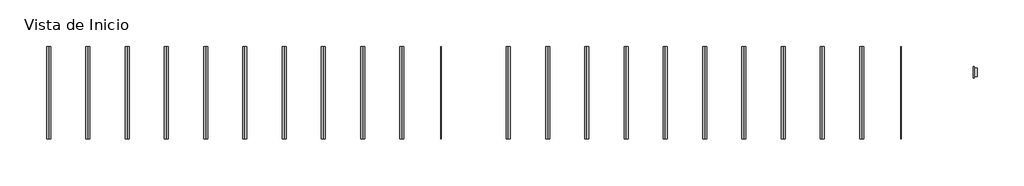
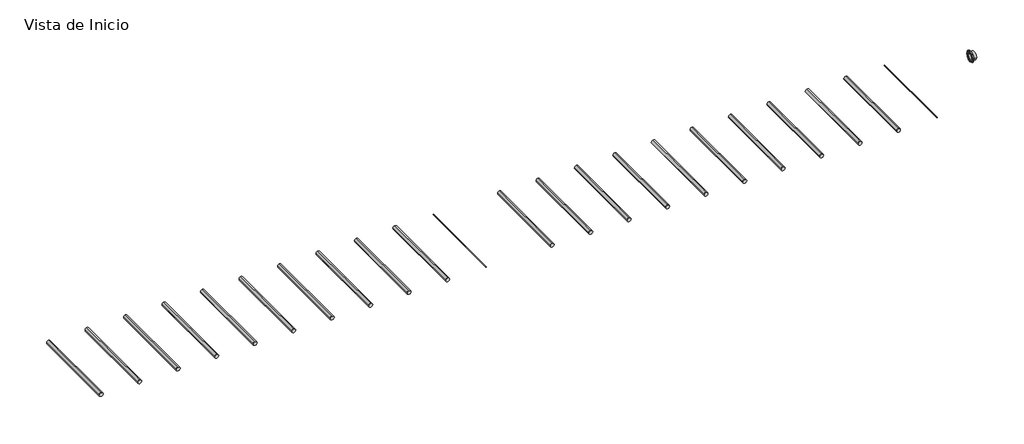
# One storey, incomplete: 22 pipe segments, 1 pipe fitting.
"""IFC4 building model written with IfcOpenShell, lengths in millimetres."""

from ifc_helpers import new_model, si_unit, point, frame, frame_2d, origin, place, context, project, spatial, circle_curve, trimmed, segment, composite_curve, outline, extrude, transform, mapped, element, save
from components import var_bb98a727

model = new_model("IFC4")

# Units and contexts
model_context = context("Model", 3, world=origin())
ifc_project = project(units=[si_unit("LENGTHUNIT", "METRE", prefix="MILLI")], contexts=[model_context])

# Site, building, storey
site = spatial("IfcSite", under=ifc_project)
building = spatial("IfcBuilding", under=site)
storey = spatial("IfcBuildingStorey", under=building, Name="Vista de Inicio", Elevation=0.0)

# Pipe fitting
placement = place(None, origin())
var_shape = var_bb98a727(model_context)
element("IfcPipeFitting", 1, ObjectType="PavcoWavin_UnionesDeTuberia_BIAX y Unión Platino_BridaAjustabledePVCSCH80 : var.", at=placement, inside=storey, context=model_context, shape_type="MappedRepresentation", body=[
    mapped(var_shape, transform((10415.36158, 2957.1682678, 0.0), x_axis=(-1.0, 0.0, 0.0), y_axis=(0.0, -1.0, 0.0), z_axis=(0.0, 0.0, 1.0))),
])

# Pipe segments
element("IfcPipeSegment", 2, ObjectType="PavcoWavin_Tuberías_Unión Platino_RDE17_4\"a12\"(6m)", at=placement, inside=storey, context=model_context, shape_type="SweptSolid", body=[
    extrude(outline(composite_curve([segment(trimmed(circle_curve(frame_2d((0.0, -869.4686059)), 84.1375), [point((0.0, -953.6061059))], [point((-84.1375, -869.4686059))], False, "CARTESIAN"), True, "CONTINUOUS"), segment(trimmed(circle_curve(frame_2d((0.0, -869.4686059)), 84.1375), [point((-84.1375, -869.4686059))], [point((0.0, -785.3311059))], False, "CARTESIAN"), True, "CONTINUOUS"), segment(trimmed(circle_curve(frame_2d((0.0, -869.4686059)), 84.1375), [point((0.0, -785.3311059))], [point((84.1375, -869.4686059))], False, "CARTESIAN"), True, "CONTINUOUS"), segment(trimmed(circle_curve(frame_2d((0.0, -869.4686059)), 84.1375), [point((84.1375, -869.4686059))], [point((0.0, -953.6061059))], False, "CARTESIAN"), True, "CONTINUOUS")], self_intersect=False)), frame((0.0, 146.208853, 0.0), z_axis=(0.0, 1.0, 0.0), x_axis=(0.0, 0.0, 1.0)), (0.0, 0.0, 1.0), 3900.0),
])
element("IfcPipeSegment", 3, ObjectType="PavcoWavin_Tuberías_BIAXIAL_RDE46_3\"a20\"(6m)", at=placement, inside=storey, context=model_context, shape_type="SweptSolid", body=[
    extrude(outline(composite_curve([segment(trimmed(circle_curve(frame_2d((0.0, -9106.9648128)), 84.1375), [point((0.0, -9191.1023128))], [point((-84.1375, -9106.9648128))], False, "CARTESIAN"), True, "CONTINUOUS"), segment(trimmed(circle_curve(frame_2d((0.0, -9106.9648128)), 84.1375), [point((-84.1375, -9106.9648128))], [point((0.0, -9022.8273128))], False, "CARTESIAN"), True, "CONTINUOUS"), segment(trimmed(circle_curve(frame_2d((0.0, -9106.9648128)), 84.1375), [point((0.0, -9022.8273128))], [point((84.1375, -9106.9648128))], False, "CARTESIAN"), True, "CONTINUOUS"), segment(trimmed(circle_curve(frame_2d((0.0, -9106.9648128)), 84.1375), [point((84.1375, -9106.9648128))], [point((0.0, -9191.1023128))], False, "CARTESIAN"), True, "CONTINUOUS")], self_intersect=False)), frame((0.0, 146.208853, 0.0), z_axis=(0.0, 1.0, 0.0), x_axis=(0.0, 0.0, 1.0)), (0.0, 0.0, 1.0), 3900.0),
])
element("IfcPipeSegment", 4, ObjectType="PavcoWavin_Tuberías_BIAXIAL_RDE37_3\"a20\"(6m)", at=placement, inside=storey, context=model_context, shape_type="SweptSolid", body=[
    extrude(outline(composite_curve([segment(trimmed(circle_curve(frame_2d((0.0, -7460.0541826)), 84.1375), [point((0.0, -7544.1916826))], [point((-84.1375, -7460.0541826))], False, "CARTESIAN"), True, "CONTINUOUS"), segment(trimmed(circle_curve(frame_2d((0.0, -7460.0541826)), 84.1375), [point((-84.1375, -7460.0541826))], [point((0.0, -7375.9166826))], False, "CARTESIAN"), True, "CONTINUOUS"), segment(trimmed(circle_curve(frame_2d((0.0, -7460.0541826)), 84.1375), [point((0.0, -7375.9166826))], [point((84.1375, -7460.0541826))], False, "CARTESIAN"), True, "CONTINUOUS"), segment(trimmed(circle_curve(frame_2d((0.0, -7460.0541826)), 84.1375), [point((84.1375, -7460.0541826))], [point((0.0, -7544.1916826))], False, "CARTESIAN"), True, "CONTINUOUS")], self_intersect=False)), frame((0.0, 146.208853, 0.0), z_axis=(0.0, 1.0, 0.0), x_axis=(0.0, 0.0, 1.0)), (0.0, 0.0, 1.0), 3900.0),
])
element("IfcPipeSegment", 5, ObjectType="PavcoWavin_Tuberías_Unión Platino_RDE9_3\"a8\"(6m)", at=placement, inside=storey, context=model_context, shape_type="SweptSolid", body=[
    extrude(outline(composite_curve([segment(trimmed(circle_curve(frame_2d((0.0, -5813.1435525)), 84.1375), [point((0.0, -5897.2810525))], [point((-84.1375, -5813.1435525))], False, "CARTESIAN"), True, "CONTINUOUS"), segment(trimmed(circle_curve(frame_2d((0.0, -5813.1435525)), 84.1375), [point((-84.1375, -5813.1435525))], [point((0.0, -5729.0060525))], False, "CARTESIAN"), True, "CONTINUOUS"), segment(trimmed(circle_curve(frame_2d((0.0, -5813.1435525)), 84.1375), [point((0.0, -5729.0060525))], [point((84.1375, -5813.1435525))], False, "CARTESIAN"), True, "CONTINUOUS"), segment(trimmed(circle_curve(frame_2d((0.0, -5813.1435525)), 84.1375), [point((84.1375, -5813.1435525))], [point((0.0, -5897.2810525))], False, "CARTESIAN"), True, "CONTINUOUS")], self_intersect=False)), frame((0.0, 146.208853, 0.0), z_axis=(0.0, 1.0, 0.0), x_axis=(0.0, 0.0, 1.0)), (0.0, 0.0, 1.0), 3900.0),
])
element("IfcPipeSegment", 6, ObjectType="PavcoWavin_Tuberías_Unión Platino_RDE11_3\"a8\"(6m)", at=placement, inside=storey, context=model_context, shape_type="SweptSolid", body=[
    extrude(outline(composite_curve([segment(trimmed(circle_curve(frame_2d((0.0, -4166.2329223)), 84.1375), [point((0.0, -4250.3704223))], [point((-84.1375, -4166.2329223))], False, "CARTESIAN"), True, "CONTINUOUS"), segment(trimmed(circle_curve(frame_2d((0.0, -4166.2329223)), 84.1375), [point((-84.1375, -4166.2329223))], [point((0.0, -4082.0954223))], False, "CARTESIAN"), True, "CONTINUOUS"), segment(trimmed(circle_curve(frame_2d((0.0, -4166.2329223)), 84.1375), [point((0.0, -4082.0954223))], [point((84.1375, -4166.2329223))], False, "CARTESIAN"), True, "CONTINUOUS"), segment(trimmed(circle_curve(frame_2d((0.0, -4166.2329223)), 84.1375), [point((84.1375, -4166.2329223))], [point((0.0, -4250.3704223))], False, "CARTESIAN"), True, "CONTINUOUS")], self_intersect=False)), frame((0.0, 146.208853, 0.0), z_axis=(0.0, 1.0, 0.0), x_axis=(0.0, 0.0, 1.0)), (0.0, 0.0, 1.0), 3900.0),
])
element("IfcPipeSegment", 7, ObjectType="PavcoWavin_Tuberías_Unión Platino_RDE13.5_2\"a14\"(6m)", at=placement, inside=storey, context=model_context, shape_type="SweptSolid", body=[
    extrude(outline(composite_curve([segment(trimmed(circle_curve(frame_2d((0.0, -2519.3222921)), 84.1375), [point((0.0, -2603.4597921))], [point((-84.1375, -2519.3222921))], False, "CARTESIAN"), True, "CONTINUOUS"), segment(trimmed(circle_curve(frame_2d((0.0, -2519.3222921)), 84.1375), [point((-84.1375, -2519.3222921))], [point((0.0, -2435.1847921))], False, "CARTESIAN"), True, "CONTINUOUS"), segment(trimmed(circle_curve(frame_2d((0.0, -2519.3222921)), 84.1375), [point((0.0, -2435.1847921))], [point((84.1375, -2519.3222921))], False, "CARTESIAN"), True, "CONTINUOUS"), segment(trimmed(circle_curve(frame_2d((0.0, -2519.3222921)), 84.1375), [point((84.1375, -2519.3222921))], [point((0.0, -2603.4597921))], False, "CARTESIAN"), True, "CONTINUOUS")], self_intersect=False)), frame((0.0, 146.208853, 0.0), z_axis=(0.0, 1.0, 0.0), x_axis=(0.0, 0.0, 1.0)), (0.0, 0.0, 1.0), 3900.0),
])
element("IfcPipeSegment", 8, ObjectType="PavcoWavin_Tuberías_Unión Platino_RDE21_2\"a24\"(6m)", at=placement, inside=storey, context=model_context, shape_type="SweptSolid", body=[
    extrude(outline(composite_curve([segment(trimmed(circle_curve(frame_2d((0.0, 777.4420243)), 84.1375), [point((0.0, 693.3045243))], [point((-84.1375, 777.4420243))], False, "CARTESIAN"), True, "CONTINUOUS"), segment(trimmed(circle_curve(frame_2d((0.0, 777.4420243)), 84.1375), [point((-84.1375, 777.4420243))], [point((0.0, 861.5795243))], False, "CARTESIAN"), True, "CONTINUOUS"), segment(trimmed(circle_curve(frame_2d((0.0, 777.4420243)), 84.1375), [point((0.0, 861.5795243))], [point((84.1375, 777.4420243))], False, "CARTESIAN"), True, "CONTINUOUS"), segment(trimmed(circle_curve(frame_2d((0.0, 777.4420243)), 84.1375), [point((84.1375, 777.4420243))], [point((0.0, 693.3045243))], False, "CARTESIAN"), True, "CONTINUOUS")], self_intersect=False)), frame((0.0, 146.208853, 0.0), z_axis=(0.0, 1.0, 0.0), x_axis=(0.0, 0.0, 1.0)), (0.0, 0.0, 1.0), 3900.0),
])
element("IfcPipeSegment", 9, ObjectType="PavcoWavin_Tuberías_Unión Platino_RDE26_2\"a24\"(6m)", at=placement, inside=storey, context=model_context, shape_type="SweptSolid", body=[
    extrude(outline(composite_curve([segment(trimmed(circle_curve(frame_2d((0.0, 2424.3526545)), 84.1375), [point((0.0, 2340.2151545))], [point((-84.1375, 2424.3526545))], False, "CARTESIAN"), True, "CONTINUOUS"), segment(trimmed(circle_curve(frame_2d((0.0, 2424.3526545)), 84.1375), [point((-84.1375, 2424.3526545))], [point((0.0, 2508.4901545))], False, "CARTESIAN"), True, "CONTINUOUS"), segment(trimmed(circle_curve(frame_2d((0.0, 2424.3526545)), 84.1375), [point((0.0, 2508.4901545))], [point((84.1375, 2424.3526545))], False, "CARTESIAN"), True, "CONTINUOUS"), segment(trimmed(circle_curve(frame_2d((0.0, 2424.3526545)), 84.1375), [point((84.1375, 2424.3526545))], [point((0.0, 2340.2151545))], False, "CARTESIAN"), True, "CONTINUOUS")], self_intersect=False)), frame((0.0, 146.208853, 0.0), z_axis=(0.0, 1.0, 0.0), x_axis=(0.0, 0.0, 1.0)), (0.0, 0.0, 1.0), 3900.0),
])
element("IfcPipeSegment", 10, ObjectType="PavcoWavin_Tuberías_Unión Platino_RDE32.5_3\"a24\"(6m)", at=placement, inside=storey, context=model_context, shape_type="SweptSolid", body=[
    extrude(outline(composite_curve([segment(trimmed(circle_curve(frame_2d((0.0, 4071.2632846)), 84.1375), [point((0.0, 3987.1257846))], [point((-84.1375, 4071.2632846))], False, "CARTESIAN"), True, "CONTINUOUS"), segment(trimmed(circle_curve(frame_2d((0.0, 4071.2632846)), 84.1375), [point((-84.1375, 4071.2632846))], [point((0.0, 4155.4007846))], False, "CARTESIAN"), True, "CONTINUOUS"), segment(trimmed(circle_curve(frame_2d((0.0, 4071.2632846)), 84.1375), [point((0.0, 4155.4007846))], [point((84.1375, 4071.2632846))], False, "CARTESIAN"), True, "CONTINUOUS"), segment(trimmed(circle_curve(frame_2d((0.0, 4071.2632846)), 84.1375), [point((84.1375, 4071.2632846))], [point((0.0, 3987.1257846))], False, "CARTESIAN"), True, "CONTINUOUS")], self_intersect=False)), frame((0.0, 146.208853, 0.0), z_axis=(0.0, 1.0, 0.0), x_axis=(0.0, 0.0, 1.0)), (0.0, 0.0, 1.0), 3900.0),
])
element("IfcPipeSegment", 11, ObjectType="PavcoWavin_Tuberías_Unión Platino_RDE41_4\"a24\"(6m)", at=placement, inside=storey, context=model_context, shape_type="SweptSolid", body=[
    extrude(outline(composite_curve([segment(trimmed(circle_curve(frame_2d((0.0, 5718.1739148)), 84.1375), [point((0.0, 5634.0364148))], [point((-84.1375, 5718.1739148))], False, "CARTESIAN"), True, "CONTINUOUS"), segment(trimmed(circle_curve(frame_2d((0.0, 5718.1739148)), 84.1375), [point((-84.1375, 5718.1739148))], [point((0.0, 5802.3114148))], False, "CARTESIAN"), True, "CONTINUOUS"), segment(trimmed(circle_curve(frame_2d((0.0, 5718.1739148)), 84.1375), [point((0.0, 5802.3114148))], [point((84.1375, 5718.1739148))], False, "CARTESIAN"), True, "CONTINUOUS"), segment(trimmed(circle_curve(frame_2d((0.0, 5718.1739148)), 84.1375), [point((84.1375, 5718.1739148))], [point((0.0, 5634.0364148))], False, "CARTESIAN"), True, "CONTINUOUS")], self_intersect=False)), frame((0.0, 146.208853, 0.0), z_axis=(0.0, 1.0, 0.0), x_axis=(0.0, 0.0, 1.0)), (0.0, 0.0, 1.0), 3900.0),
])
element("IfcPipeSegment", 12, ObjectType="PavcoWavin_Tuberías Flexibles_Unión Platino_RDE17_4\"a12\"(6m)", at=placement, inside=storey, context=model_context, shape_type="SweptSolid", body=[
    extrude(outline(composite_curve([segment(trimmed(circle_curve(frame_2d((0.0, -20169.4686059)), 84.1375), [point((0.0, -20253.6061059))], [point((-84.1375, -20169.4686059))], False, "CARTESIAN"), True, "CONTINUOUS"), segment(trimmed(circle_curve(frame_2d((0.0, -20169.4686059)), 84.1375), [point((-84.1375, -20169.4686059))], [point((0.0, -20085.3311059))], False, "CARTESIAN"), True, "CONTINUOUS"), segment(trimmed(circle_curve(frame_2d((0.0, -20169.4686059)), 84.1375), [point((0.0, -20085.3311059))], [point((84.1375, -20169.4686059))], False, "CARTESIAN"), True, "CONTINUOUS"), segment(trimmed(circle_curve(frame_2d((0.0, -20169.4686059)), 84.1375), [point((84.1375, -20169.4686059))], [point((0.0, -20253.6061059))], False, "CARTESIAN"), True, "CONTINUOUS")], self_intersect=False)), frame((0.0, 146.208853, 0.0), z_axis=(0.0, 1.0, 0.0), x_axis=(0.0, 0.0, 1.0)), (0.0, 0.0, 1.0), 3900.0),
])
element("IfcPipeSegment", 13, ObjectType="PavcoWavin_Tuberías Flexibles_BIAXIAL_RDE46_3\"a20\"(6m)", at=placement, inside=storey, context=model_context, shape_type="SweptSolid", body=[
    extrude(outline(composite_curve([segment(trimmed(circle_curve(frame_2d((0.0, -28406.9648128)), 84.1375), [point((0.0, -28491.1023128))], [point((-84.1375, -28406.9648128))], False, "CARTESIAN"), True, "CONTINUOUS"), segment(trimmed(circle_curve(frame_2d((0.0, -28406.9648128)), 84.1375), [point((-84.1375, -28406.9648128))], [point((0.0, -28322.8273128))], False, "CARTESIAN"), True, "CONTINUOUS"), segment(trimmed(circle_curve(frame_2d((0.0, -28406.9648128)), 84.1375), [point((0.0, -28322.8273128))], [point((84.1375, -28406.9648128))], False, "CARTESIAN"), True, "CONTINUOUS"), segment(trimmed(circle_curve(frame_2d((0.0, -28406.9648128)), 84.1375), [point((84.1375, -28406.9648128))], [point((0.0, -28491.1023128))], False, "CARTESIAN"), True, "CONTINUOUS")], self_intersect=False)), frame((0.0, 146.208853, 0.0), z_axis=(0.0, 1.0, 0.0), x_axis=(0.0, 0.0, 1.0)), (0.0, 0.0, 1.0), 3900.0),
])
element("IfcPipeSegment", 14, ObjectType="PavcoWavin_Tuberías Flexibles_BIAXIAL_RDE37_3\"a20\"(6m)", at=placement, inside=storey, context=model_context, shape_type="SweptSolid", body=[
    extrude(outline(composite_curve([segment(trimmed(circle_curve(frame_2d((0.0, -26760.0541826)), 84.1375), [point((0.0, -26844.1916826))], [point((-84.1375, -26760.0541826))], False, "CARTESIAN"), True, "CONTINUOUS"), segment(trimmed(circle_curve(frame_2d((0.0, -26760.0541826)), 84.1375), [point((-84.1375, -26760.0541826))], [point((0.0, -26675.9166826))], False, "CARTESIAN"), True, "CONTINUOUS"), segment(trimmed(circle_curve(frame_2d((0.0, -26760.0541826)), 84.1375), [point((0.0, -26675.9166826))], [point((84.1375, -26760.0541826))], False, "CARTESIAN"), True, "CONTINUOUS"), segment(trimmed(circle_curve(frame_2d((0.0, -26760.0541826)), 84.1375), [point((84.1375, -26760.0541826))], [point((0.0, -26844.1916826))], False, "CARTESIAN"), True, "CONTINUOUS")], self_intersect=False)), frame((0.0, 146.208853, 0.0), z_axis=(0.0, 1.0, 0.0), x_axis=(0.0, 0.0, 1.0)), (0.0, 0.0, 1.0), 3900.0),
])
element("IfcPipeSegment", 15, ObjectType="PavcoWavin_Tuberías Flexibles_Unión Platino_RDE9_3\"a8\"(6m)", at=placement, inside=storey, context=model_context, shape_type="SweptSolid", body=[
    extrude(outline(composite_curve([segment(trimmed(circle_curve(frame_2d((0.0, -25113.1435525)), 84.1375), [point((0.0, -25197.2810525))], [point((-84.1375, -25113.1435525))], False, "CARTESIAN"), True, "CONTINUOUS"), segment(trimmed(circle_curve(frame_2d((0.0, -25113.1435525)), 84.1375), [point((-84.1375, -25113.1435525))], [point((0.0, -25029.0060525))], False, "CARTESIAN"), True, "CONTINUOUS"), segment(trimmed(circle_curve(frame_2d((0.0, -25113.1435525)), 84.1375), [point((0.0, -25029.0060525))], [point((84.1375, -25113.1435525))], False, "CARTESIAN"), True, "CONTINUOUS"), segment(trimmed(circle_curve(frame_2d((0.0, -25113.1435525)), 84.1375), [point((84.1375, -25113.1435525))], [point((0.0, -25197.2810525))], False, "CARTESIAN"), True, "CONTINUOUS")], self_intersect=False)), frame((0.0, 146.208853, 0.0), z_axis=(0.0, 1.0, 0.0), x_axis=(0.0, 0.0, 1.0)), (0.0, 0.0, 1.0), 3900.0),
])
element("IfcPipeSegment", 16, ObjectType="PavcoWavin_Tuberías Flexibles_Unión Platino_RDE11_3\"a8\"(6m)", at=placement, inside=storey, context=model_context, shape_type="SweptSolid", body=[
    extrude(outline(composite_curve([segment(trimmed(circle_curve(frame_2d((0.0, -23466.2329223)), 84.1375), [point((0.0, -23550.3704223))], [point((-84.1375, -23466.2329223))], False, "CARTESIAN"), True, "CONTINUOUS"), segment(trimmed(circle_curve(frame_2d((0.0, -23466.2329223)), 84.1375), [point((-84.1375, -23466.2329223))], [point((0.0, -23382.0954223))], False, "CARTESIAN"), True, "CONTINUOUS"), segment(trimmed(circle_curve(frame_2d((0.0, -23466.2329223)), 84.1375), [point((0.0, -23382.0954223))], [point((84.1375, -23466.2329223))], False, "CARTESIAN"), True, "CONTINUOUS"), segment(trimmed(circle_curve(frame_2d((0.0, -23466.2329223)), 84.1375), [point((84.1375, -23466.2329223))], [point((0.0, -23550.3704223))], False, "CARTESIAN"), True, "CONTINUOUS")], self_intersect=False)), frame((0.0, 146.208853, 0.0), z_axis=(0.0, 1.0, 0.0), x_axis=(0.0, 0.0, 1.0)), (0.0, 0.0, 1.0), 3900.0),
])
element("IfcPipeSegment", 17, ObjectType="PavcoWavin_Tuberías Flexibles_Unión Platino_RDE13.5_2\"a14\"(6m)", at=placement, inside=storey, context=model_context, shape_type="SweptSolid", body=[
    extrude(outline(composite_curve([segment(trimmed(circle_curve(frame_2d((0.0, -21819.3222921)), 84.1375), [point((0.0, -21903.4597921))], [point((-84.1375, -21819.3222921))], False, "CARTESIAN"), True, "CONTINUOUS"), segment(trimmed(circle_curve(frame_2d((0.0, -21819.3222921)), 84.1375), [point((-84.1375, -21819.3222921))], [point((0.0, -21735.1847921))], False, "CARTESIAN"), True, "CONTINUOUS"), segment(trimmed(circle_curve(frame_2d((0.0, -21819.3222921)), 84.1375), [point((0.0, -21735.1847921))], [point((84.1375, -21819.3222921))], False, "CARTESIAN"), True, "CONTINUOUS"), segment(trimmed(circle_curve(frame_2d((0.0, -21819.3222921)), 84.1375), [point((84.1375, -21819.3222921))], [point((0.0, -21903.4597921))], False, "CARTESIAN"), True, "CONTINUOUS")], self_intersect=False)), frame((0.0, 146.208853, 0.0), z_axis=(0.0, 1.0, 0.0), x_axis=(0.0, 0.0, 1.0)), (0.0, 0.0, 1.0), 3900.0),
])
element("IfcPipeSegment", 18, ObjectType="PavcoWavin_Tuberías Flexibles_Unión Platino_RDE21_2\"a24\"(6m)", at=placement, inside=storey, context=model_context, shape_type="SweptSolid", body=[
    extrude(outline(composite_curve([segment(trimmed(circle_curve(frame_2d((0.0, -18522.5579757)), 84.1375), [point((0.0, -18606.6954757))], [point((-84.1375, -18522.5579757))], False, "CARTESIAN"), True, "CONTINUOUS"), segment(trimmed(circle_curve(frame_2d((0.0, -18522.5579757)), 84.1375), [point((-84.1375, -18522.5579757))], [point((0.0, -18438.4204757))], False, "CARTESIAN"), True, "CONTINUOUS"), segment(trimmed(circle_curve(frame_2d((0.0, -18522.5579757)), 84.1375), [point((0.0, -18438.4204757))], [point((84.1375, -18522.5579757))], False, "CARTESIAN"), True, "CONTINUOUS"), segment(trimmed(circle_curve(frame_2d((0.0, -18522.5579757)), 84.1375), [point((84.1375, -18522.5579757))], [point((0.0, -18606.6954757))], False, "CARTESIAN"), True, "CONTINUOUS")], self_intersect=False)), frame((0.0, 146.208853, 0.0), z_axis=(0.0, 1.0, 0.0), x_axis=(0.0, 0.0, 1.0)), (0.0, 0.0, 1.0), 3900.0),
])
element("IfcPipeSegment", 19, ObjectType="PavcoWavin_Tuberías Flexibles_Unión Platino_RDE26_2\"a24\"(6m)", at=placement, inside=storey, context=model_context, shape_type="SweptSolid", body=[
    extrude(outline(composite_curve([segment(trimmed(circle_curve(frame_2d((0.0, -16875.6473455)), 84.1375), [point((0.0, -16959.7848455))], [point((-84.1375, -16875.6473455))], False, "CARTESIAN"), True, "CONTINUOUS"), segment(trimmed(circle_curve(frame_2d((0.0, -16875.6473455)), 84.1375), [point((-84.1375, -16875.6473455))], [point((0.0, -16791.5098455))], False, "CARTESIAN"), True, "CONTINUOUS"), segment(trimmed(circle_curve(frame_2d((0.0, -16875.6473455)), 84.1375), [point((0.0, -16791.5098455))], [point((84.1375, -16875.6473455))], False, "CARTESIAN"), True, "CONTINUOUS"), segment(trimmed(circle_curve(frame_2d((0.0, -16875.6473455)), 84.1375), [point((84.1375, -16875.6473455))], [point((0.0, -16959.7848455))], False, "CARTESIAN"), True, "CONTINUOUS")], self_intersect=False)), frame((0.0, 146.208853, 0.0), z_axis=(0.0, 1.0, 0.0), x_axis=(0.0, 0.0, 1.0)), (0.0, 0.0, 1.0), 3900.0),
])
element("IfcPipeSegment", 20, ObjectType="PavcoWavin_Tuberías Flexibles_Unión Platino_RDE32.5_3\"a24\"(6m)", at=placement, inside=storey, context=model_context, shape_type="SweptSolid", body=[
    extrude(outline(composite_curve([segment(trimmed(circle_curve(frame_2d((0.0, -15228.7367154)), 84.1375), [point((0.0, -15312.8742154))], [point((-84.1375, -15228.7367154))], False, "CARTESIAN"), True, "CONTINUOUS"), segment(trimmed(circle_curve(frame_2d((0.0, -15228.7367154)), 84.1375), [point((-84.1375, -15228.7367154))], [point((0.0, -15144.5992154))], False, "CARTESIAN"), True, "CONTINUOUS"), segment(trimmed(circle_curve(frame_2d((0.0, -15228.7367154)), 84.1375), [point((0.0, -15144.5992154))], [point((84.1375, -15228.7367154))], False, "CARTESIAN"), True, "CONTINUOUS"), segment(trimmed(circle_curve(frame_2d((0.0, -15228.7367154)), 84.1375), [point((84.1375, -15228.7367154))], [point((0.0, -15312.8742154))], False, "CARTESIAN"), True, "CONTINUOUS")], self_intersect=False)), frame((0.0, 146.208853, 0.0), z_axis=(0.0, 1.0, 0.0), x_axis=(0.0, 0.0, 1.0)), (0.0, 0.0, 1.0), 3900.0),
])
element("IfcPipeSegment", 21, ObjectType="PavcoWavin_Tuberías Flexibles_Unión Platino_RDE41_4\"a24\"(6m)", at=placement, inside=storey, context=model_context, shape_type="SweptSolid", body=[
    extrude(outline(composite_curve([segment(trimmed(circle_curve(frame_2d((0.0, -13581.8260852)), 84.1375), [point((0.0, -13665.9635852))], [point((-84.1375, -13581.8260852))], False, "CARTESIAN"), True, "CONTINUOUS"), segment(trimmed(circle_curve(frame_2d((0.0, -13581.8260852)), 84.1375), [point((-84.1375, -13581.8260852))], [point((0.0, -13497.6885852))], False, "CARTESIAN"), True, "CONTINUOUS"), segment(trimmed(circle_curve(frame_2d((0.0, -13581.8260852)), 84.1375), [point((0.0, -13497.6885852))], [point((84.1375, -13581.8260852))], False, "CARTESIAN"), True, "CONTINUOUS"), segment(trimmed(circle_curve(frame_2d((0.0, -13581.8260852)), 84.1375), [point((84.1375, -13581.8260852))], [point((0.0, -13665.9635852))], False, "CARTESIAN"), True, "CONTINUOUS")], self_intersect=False)), frame((0.0, 146.208853, 0.0), z_axis=(0.0, 1.0, 0.0), x_axis=(0.0, 0.0, 1.0)), (0.0, 0.0, 1.0), 3900.0),
])
element("IfcPipeSegment", 22, ObjectType="PavcoWavin_Tuberías Flexibles_PF + UAD_RDE9_1/2\"a3/4\"(90m)", at=placement, inside=storey, context=model_context, shape_type="SweptSolid", body=[
    extrude(outline(composite_curve([segment(trimmed(circle_curve(frame_2d((0.0, -11934.915455)), 11.1125), [point((0.0, -11946.027955))], [point((-11.1125, -11934.915455))], False, "CARTESIAN"), True, "CONTINUOUS"), segment(trimmed(circle_curve(frame_2d((0.0, -11934.915455)), 11.1125), [point((-11.1125, -11934.915455))], [point((0.0, -11923.802955))], False, "CARTESIAN"), True, "CONTINUOUS"), segment(trimmed(circle_curve(frame_2d((0.0, -11934.915455)), 11.1125), [point((0.0, -11923.802955))], [point((11.1125, -11934.915455))], False, "CARTESIAN"), True, "CONTINUOUS"), segment(trimmed(circle_curve(frame_2d((0.0, -11934.915455)), 11.1125), [point((11.1125, -11934.915455))], [point((0.0, -11946.027955))], False, "CARTESIAN"), True, "CONTINUOUS")], self_intersect=False)), frame((0.0, 146.208853, 0.0), z_axis=(0.0, 1.0, 0.0), x_axis=(0.0, 0.0, 1.0)), (0.0, 0.0, 1.0), 3900.0),
])
element("IfcPipeSegment", 23, ObjectType="PavcoWavin_Tuberías_PF + UAD_RDE9_1/2\"a3/4\"(90m)", at=placement, inside=storey, context=model_context, shape_type="SweptSolid", body=[
    extrude(outline(composite_curve([segment(trimmed(circle_curve(frame_2d((0.0, 7365.084545)), 11.1125), [point((0.0, 7353.972045))], [point((-11.1125, 7365.084545))], False, "CARTESIAN"), True, "CONTINUOUS"), segment(trimmed(circle_curve(frame_2d((0.0, 7365.084545)), 11.1125), [point((-11.1125, 7365.084545))], [point((0.0, 7376.197045))], False, "CARTESIAN"), True, "CONTINUOUS"), segment(trimmed(circle_curve(frame_2d((0.0, 7365.084545)), 11.1125), [point((0.0, 7376.197045))], [point((11.1125, 7365.084545))], False, "CARTESIAN"), True, "CONTINUOUS"), segment(trimmed(circle_curve(frame_2d((0.0, 7365.084545)), 11.1125), [point((11.1125, 7365.084545))], [point((0.0, 7353.972045))], False, "CARTESIAN"), True, "CONTINUOUS")], self_intersect=False)), frame((0.0, 146.208853, 0.0), z_axis=(0.0, 1.0, 0.0), x_axis=(0.0, 0.0, 1.0)), (0.0, 0.0, 1.0), 3900.0),
])

save(model, "model.ifc")
